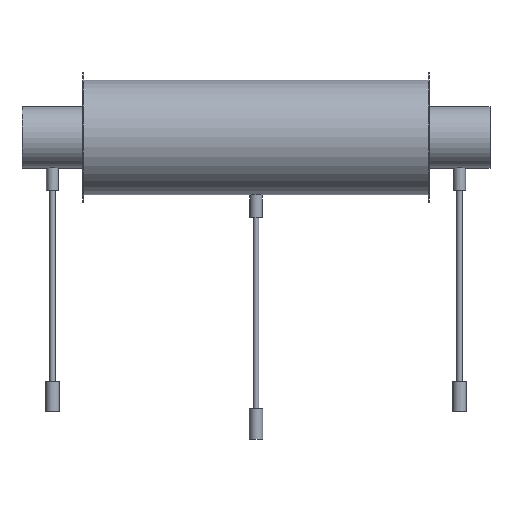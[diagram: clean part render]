
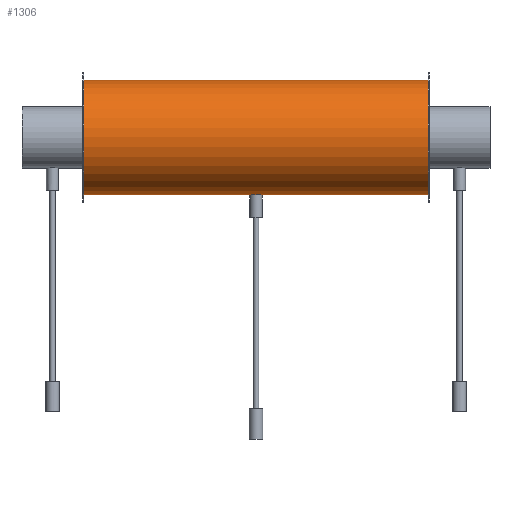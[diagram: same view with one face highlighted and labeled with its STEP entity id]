
A CAD part, top view. The second image highlights one B-rep face of the part: STEP entity #1306.
In plain terms, the highlighted cylindrical face has radius 150 mm (diameter 300 mm), a partial arc.
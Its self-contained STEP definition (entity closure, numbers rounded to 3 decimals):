
#471=CARTESIAN_POINT('',(451.,0.,0.));
#472=DIRECTION('',(1.,0.,0.));
#473=DIRECTION('',(0.,1.,0.));
#474=AXIS2_PLACEMENT_3D('',#471,#472,#473);
#476=DIRECTION('',(-1.,0.,0.));
#477=VECTOR('',#476,902.);
#478=CARTESIAN_POINT('',(451.,150.,0.));
#479=LINE('',#478,#477);
#480=DIRECTION('',(-1.,0.,0.));
#481=VECTOR('',#480,902.);
#482=CARTESIAN_POINT('',(451.,-150.,0.));
#483=LINE('',#482,#481);
#494=CARTESIAN_POINT('',(-451.,0.,0.));
#495=DIRECTION('',(1.,0.,0.));
#496=DIRECTION('',(0.,1.,0.));
#497=AXIS2_PLACEMENT_3D('',#494,#495,#496);
#779=CARTESIAN_POINT('',(451.,150.,0.));
#780=CARTESIAN_POINT('',(-451.,150.,0.));
#781=VERTEX_POINT('',#779);
#782=VERTEX_POINT('',#780);
#791=CARTESIAN_POINT('',(451.,-150.,0.));
#792=CARTESIAN_POINT('',(-451.,-150.,0.));
#793=VERTEX_POINT('',#791);
#794=VERTEX_POINT('',#792);
#1292=CARTESIAN_POINT('',(-498.3,0.,0.));
#1293=DIRECTION('',(1.,0.,0.));
#1294=DIRECTION('',(0.,-1.,0.));
#1295=AXIS2_PLACEMENT_3D('',#1292,#1293,#1294);
#1296=CYLINDRICAL_SURFACE('',#1295,150.);
#1298=ORIENTED_EDGE('',*,*,#1297,.F.);
#1299=ORIENTED_EDGE('',*,*,#1285,.T.);
#1301=ORIENTED_EDGE('',*,*,#1300,.T.);
#1303=ORIENTED_EDGE('',*,*,#1302,.F.);
#1304=EDGE_LOOP('',(#1298,#1299,#1301,#1303));
#1305=FACE_OUTER_BOUND('',#1304,.F.);
#475=CIRCLE('',#474,150.);
#498=CIRCLE('',#497,150.);
#1285=EDGE_CURVE('',#781,#793,#475,.T.);
#1297=EDGE_CURVE('',#781,#782,#479,.T.);
#1300=EDGE_CURVE('',#793,#794,#483,.T.);
#1302=EDGE_CURVE('',#782,#794,#498,.T.);
#1306=ADVANCED_FACE('',(#1305),#1296,.T.);
